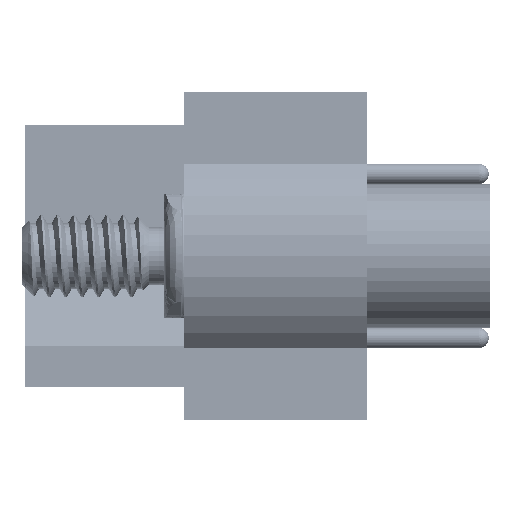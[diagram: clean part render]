
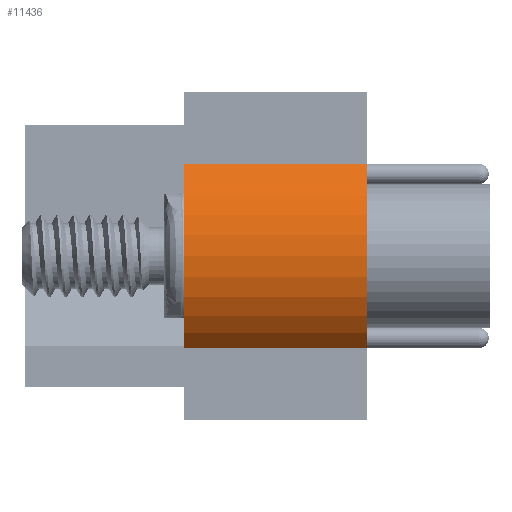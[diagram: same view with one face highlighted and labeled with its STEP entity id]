
A CAD part, left-side view. The second image highlights one B-rep face of the part: STEP entity #11436.
In plain terms, the highlighted cylindrical face has radius 3 mm (diameter 6 mm), a partial arc.
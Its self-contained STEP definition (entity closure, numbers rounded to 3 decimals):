
#46=CARTESIAN_POINT('',(-23.5,0.,0.));
#47=DIRECTION('',(0.,-1.,0.));
#48=DIRECTION('',(-0.667,0.,0.745));
#49=AXIS2_PLACEMENT_3D('',#46,#47,#48);
#324=CARTESIAN_POINT('',(-23.5,-4.46,0.));
#325=DIRECTION('',(0.,-1.,0.));
#326=DIRECTION('',(-0.667,0.,0.745));
#327=AXIS2_PLACEMENT_3D('',#324,#325,#326);
#673=DIRECTION('',(0.,-1.,0.));
#674=VECTOR('',#673,4.46);
#675=CARTESIAN_POINT('',(-25.5,0.,-2.236));
#676=LINE('',#675,#674);
#680=DIRECTION('',(0.,-1.,0.));
#681=VECTOR('',#680,4.46);
#682=CARTESIAN_POINT('',(-25.5,0.,2.236));
#683=LINE('',#682,#681);
#9320=CARTESIAN_POINT('',(-25.5,0.,2.236));
#9321=VERTEX_POINT('',#9320);
#9322=CARTESIAN_POINT('',(-25.5,0.,-2.236));
#9323=VERTEX_POINT('',#9322);
#9335=CARTESIAN_POINT('',(-25.5,-4.46,2.236));
#9337=VERTEX_POINT('',#9335);
#9338=CARTESIAN_POINT('',(-25.5,-4.46,-2.236));
#9339=VERTEX_POINT('',#9338);
#11424=CARTESIAN_POINT('',(-23.5,0.,0.));
#11425=DIRECTION('',(0.,-1.,0.));
#11426=DIRECTION('',(-1.,0.,0.));
#11427=AXIS2_PLACEMENT_3D('',#11424,#11425,#11426);
#11428=CYLINDRICAL_SURFACE('',#11427,3.);
#11429=ORIENTED_EDGE('',*,*,#10957,.F.);
#11431=ORIENTED_EDGE('',*,*,#11430,.T.);
#11432=ORIENTED_EDGE('',*,*,#11065,.T.);
#11433=ORIENTED_EDGE('',*,*,#11417,.F.);
#11434=EDGE_LOOP('',(#11429,#11431,#11432,#11433));
#11435=FACE_OUTER_BOUND('',#11434,.F.);
#50=CIRCLE('',#49,3.);
#328=CIRCLE('',#327,3.);
#10957=EDGE_CURVE('',#9321,#9323,#50,.T.);
#11065=EDGE_CURVE('',#9337,#9339,#328,.T.);
#11417=EDGE_CURVE('',#9323,#9339,#676,.T.);
#11430=EDGE_CURVE('',#9321,#9337,#683,.T.);
#11436=ADVANCED_FACE('',(#11435),#11428,.T.);
